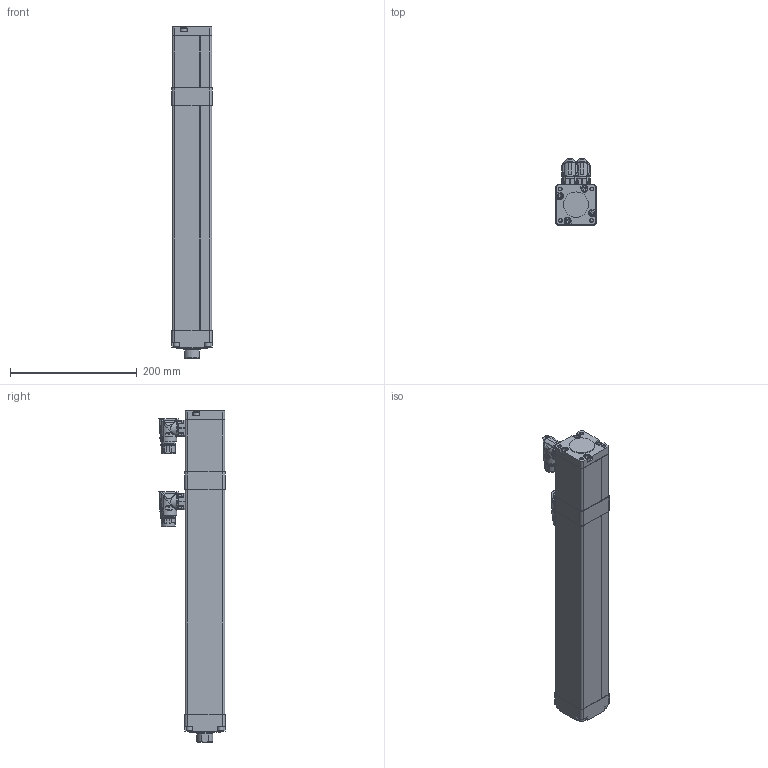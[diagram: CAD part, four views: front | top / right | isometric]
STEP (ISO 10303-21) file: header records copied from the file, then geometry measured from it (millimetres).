
FILE_DESCRIPTION (( 'STEP AP203' ), '1' );
FILE_NAME ('IMA22_BN05_SM300.000_IMA-474939-1.step', '2024-11-14T07:25:40', ( '' ), ( '' ), 'SwSTEP 2.0', 'SolidWorks 2024', '' );
FILE_SCHEMA (( 'CONFIG_CONTROL_DESIGN' ));
Length unit declared in the file: inch
Products named in the file (3): tempJoin0_27229012_IMA22_BN05_SM300.000_IMA-474939-1; IMA22_BN05_SM300.000_IMA-474939-1; Base_IMA22_BN05_SM300.000_IMA-474939-1
Assembly tree (2 placements, depth 2):
  IMA22_BN05_SM300.000_IMA-474939-1
    tempJoin0_27229012_IMA22_BN05_SM300.000_IMA-474939-1
    Base_IMA22_BN05_SM300.000_IMA-474939-1
Bounding box: 63.5 x 104.39 x 524.92 mm (x, y, z)
Volume: 1984795.7 mm3; surface area: 223745.8 mm2
Topology: 2 solids, 20 shells, 1225 faces, 3094 edges, 2047 vertices
Faces by surface type: plane 590, cylinder 325, cone 128, bspline 115, torus 55, sphere 12
Full cylindrical faces by diameter (mm): 1 x17, 1.18 x17, 2.5 x8, 2.972 x8, 3.26 x8, 4.5 x10, 5.001 x8, 5.35 x3, 5.5 x2, 5.9 x2, 6 x4, 6.25 x16, 6.68 x4, 6.75 x1, 10 x8, 10.312 x4, 17.4 x3, 19.9 x1, 21.15 x4, 21.6 x1, 21.653 x2, 21.7 x2, 24.3 x2, 25.146 x1, 25.385 x1, 25.4 x1, 30 x2, 31.623 x1, 40 x1, 48 x1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
Entity records: 48830 total; most frequent: CARTESIAN_POINT 21712, ORIENTED_EDGE 5552, DIRECTION 4948, EDGE_CURVE 2776, VERTEX_POINT 1969, AXIS2_PLACEMENT_3D 1892, EDGE_LOOP 1635, FACE_OUTER_BOUND 1414
